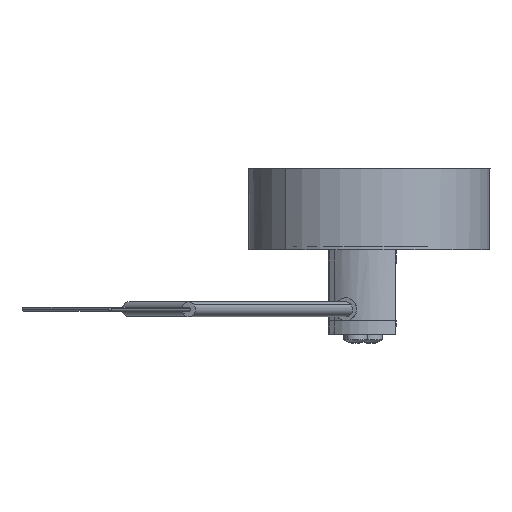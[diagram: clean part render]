
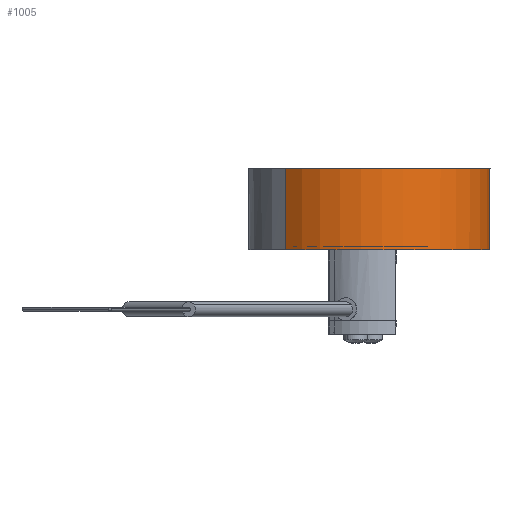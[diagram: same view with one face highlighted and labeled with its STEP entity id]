
A CAD part, left-side view. The second image highlights one B-rep face of the part: STEP entity #1005.
In plain terms, the highlighted cylindrical face has radius 31.5 mm (diameter 63 mm), a partial arc.
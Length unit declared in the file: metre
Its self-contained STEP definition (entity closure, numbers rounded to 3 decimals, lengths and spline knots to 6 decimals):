
#10 = CARTESIAN_POINT ( 'NONE',  ( -0.0315, 0., 0.0212 ) ) ;
#79 = CARTESIAN_POINT ( 'NONE',  ( -0.031048, -0.005317, 0.0212 ) ) ;
#100 = VERTEX_POINT ( 'NONE', #2673 ) ;
#190 = CARTESIAN_POINT ( 'NONE',  ( 0., 0., 0. ) ) ;
#206 = ORIENTED_EDGE ( 'NONE', *, *, #2309, .T. ) ;
#222 = FACE_OUTER_BOUND ( 'NONE', #3080, .T. ) ;
#382 = ORIENTED_EDGE ( 'NONE', *, *, #4426, .F. ) ;
#453 = ORIENTED_EDGE ( 'NONE', *, *, #4396, .T. ) ;
#468 = DIRECTION ( 'NONE',  ( -1., 0., 0. ) ) ;
#476 = AXIS2_PLACEMENT_3D ( 'NONE', #586, #4019, #1954 ) ;
#508 = CIRCLE ( 'NONE', #1882, 0.0315 ) ;
#570 = EDGE_CURVE ( 'NONE', #2428, #3507, #4047, .T. ) ;
#571 = CIRCLE ( 'NONE', #476, 0.0315 ) ;
#586 = CARTESIAN_POINT ( 'NONE',  ( 0., 0., 0.0212 ) ) ;
#638 = VECTOR ( 'NONE', #3139, 1. ) ;
#701 = DIRECTION ( 'NONE',  ( 0., 0., -1. ) ) ;
#704 = CARTESIAN_POINT ( 'NONE',  ( -0.0315, 0., 0. ) ) ;
#894 = DIRECTION ( 'NONE',  ( 0., 0., 1. ) ) ;
#945 = DIRECTION ( 'NONE',  ( -1., 0., 0. ) ) ;
#964 = EDGE_CURVE ( 'NONE', #2860, #100, #3591, .T. ) ;
#1005 = ADVANCED_FACE ( 'NONE', ( #222 ), #2840, .T. ) ;
#1072 = CARTESIAN_POINT ( 'NONE',  ( -0.029547, -0.010919, 0.0106 ) ) ;
#1206 = CARTESIAN_POINT ( 'NONE',  ( 0., 0., 0.0165 ) ) ;
#1219 = ORIENTED_EDGE ( 'NONE', *, *, #964, .F. ) ;
#1236 = DIRECTION ( 'NONE',  ( -1., 0., 0. ) ) ;
#1344 = DIRECTION ( 'NONE',  ( 0., 0., -1. ) ) ;
#1408 = CARTESIAN_POINT ( 'NONE',  ( -0.029547, -0.010919, 0.0165 ) ) ;
#1447 = LINE ( 'NONE', #2038, #3110 ) ;
#1452 = EDGE_CURVE ( 'NONE', #2322, #2860, #1822, .T. ) ;
#1547 = AXIS2_PLACEMENT_3D ( 'NONE', #3555, #2799, #468 ) ;
#1662 = LINE ( 'NONE', #10, #2183 ) ;
#1681 = VERTEX_POINT ( 'NONE', #4014 ) ;
#1710 = VECTOR ( 'NONE', #1344, 1. ) ;
#1822 = CIRCLE ( 'NONE', #1547, 0.0315 ) ;
#1882 = AXIS2_PLACEMENT_3D ( 'NONE', #190, #894, #1236 ) ;
#1886 = ORIENTED_EDGE ( 'NONE', *, *, #1452, .F. ) ;
#1954 = DIRECTION ( 'NONE',  ( -1., 0., 0. ) ) ;
#1958 = AXIS2_PLACEMENT_3D ( 'NONE', #1206, #3608, #2456 ) ;
#2038 = CARTESIAN_POINT ( 'NONE',  ( -0.031048, -0.005317, 0.0106 ) ) ;
#2183 = VECTOR ( 'NONE', #2440, 1. ) ;
#2309 = EDGE_CURVE ( 'NONE', #1681, #4107, #1662, .T. ) ;
#2322 = VERTEX_POINT ( 'NONE', #2424 ) ;
#2347 = CARTESIAN_POINT ( 'NONE',  ( 0., 0., 0.0212 ) ) ;
#2424 = CARTESIAN_POINT ( 'NONE',  ( -0.029547, -0.010919, 0.0212 ) ) ;
#2428 = VERTEX_POINT ( 'NONE', #3141 ) ;
#2440 = DIRECTION ( 'NONE',  ( 0., 0., -1. ) ) ;
#2456 = DIRECTION ( 'NONE',  ( -1., 0., 0. ) ) ;
#2473 = ORIENTED_EDGE ( 'NONE', *, *, #2749, .F. ) ;
#2542 = VERTEX_POINT ( 'NONE', #79 ) ;
#2673 = CARTESIAN_POINT ( 'NONE',  ( 0.0315, 0., 0. ) ) ;
#2749 = EDGE_CURVE ( 'NONE', #2542, #2428, #1447, .T. ) ;
#2799 = DIRECTION ( 'NONE',  ( 0., 0., 1. ) ) ;
#2840 = CYLINDRICAL_SURFACE ( 'NONE', #4033, 0.0315 ) ;
#2860 = VERTEX_POINT ( 'NONE', #3119 ) ;
#2918 = ORIENTED_EDGE ( 'NONE', *, *, #4076, .F. ) ;
#3080 = EDGE_LOOP ( 'NONE', ( #1219, #1886, #2918, #4165, #2473, #382, #206, #453 ) ) ;
#3110 = VECTOR ( 'NONE', #701, 1. ) ;
#3119 = CARTESIAN_POINT ( 'NONE',  ( 0.0315, 0., 0.0212 ) ) ;
#3139 = DIRECTION ( 'NONE',  ( 0., 0., 1. ) ) ;
#3141 = CARTESIAN_POINT ( 'NONE',  ( -0.031048, -0.005317, 0.0165 ) ) ;
#3163 = LINE ( 'NONE', #1072, #638 ) ;
#3507 = VERTEX_POINT ( 'NONE', #1408 ) ;
#3555 = CARTESIAN_POINT ( 'NONE',  ( 0., 0., 0.0212 ) ) ;
#3591 = LINE ( 'NONE', #4074, #1710 ) ;
#3608 = DIRECTION ( 'NONE',  ( 0., 0., 1. ) ) ;
#4014 = CARTESIAN_POINT ( 'NONE',  ( -0.0315, 0., 0.0212 ) ) ;
#4019 = DIRECTION ( 'NONE',  ( 0., 0., 1. ) ) ;
#4027 = DIRECTION ( 'NONE',  ( 0., 0., -1. ) ) ;
#4033 = AXIS2_PLACEMENT_3D ( 'NONE', #2347, #4027, #945 ) ;
#4047 = CIRCLE ( 'NONE', #1958, 0.0315 ) ;
#4074 = CARTESIAN_POINT ( 'NONE',  ( 0.0315, 0., 0.0212 ) ) ;
#4076 = EDGE_CURVE ( 'NONE', #3507, #2322, #3163, .T. ) ;
#4107 = VERTEX_POINT ( 'NONE', #704 ) ;
#4165 = ORIENTED_EDGE ( 'NONE', *, *, #570, .F. ) ;
#4396 = EDGE_CURVE ( 'NONE', #4107, #100, #508, .T. ) ;
#4426 = EDGE_CURVE ( 'NONE', #1681, #2542, #571, .T. ) ;
